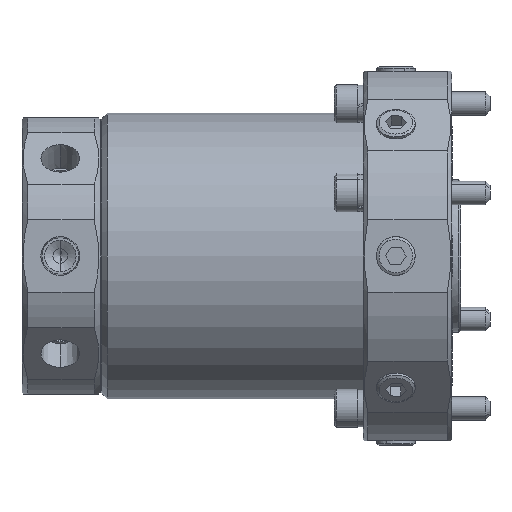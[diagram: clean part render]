
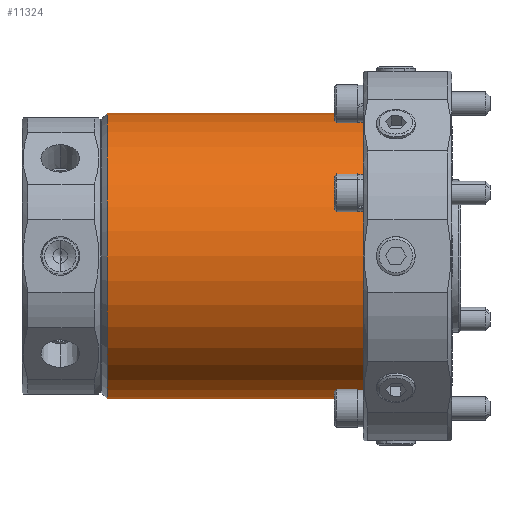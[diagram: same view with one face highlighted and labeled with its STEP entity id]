
A CAD part, left-side view. The second image highlights one B-rep face of the part: STEP entity #11324.
In plain terms, the highlighted cylindrical face has radius 48.5 mm (diameter 97 mm), a partial arc.
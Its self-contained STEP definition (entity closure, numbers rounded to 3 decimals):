
#2107 = AXIS2_PLACEMENT_3D ( 'NONE', #2121, #2109, #2166 ) ;
#2109 = DIRECTION ( 'NONE',  ( 0., 1., 0. ) ) ;
#2116 = CIRCLE ( 'NONE', #2107, 48.5 ) ;
#2121 = CARTESIAN_POINT ( 'NONE',  ( 0., -2.857, 0. ) ) ;
#2138 = DIRECTION ( 'NONE',  ( 0., 0., 1. ) ) ;
#2139 = DIRECTION ( 'NONE',  ( 0., 1., 0. ) ) ;
#2140 = CARTESIAN_POINT ( 'NONE',  ( 0., 40.14, 0. ) ) ;
#2144 = DIRECTION ( 'NONE',  ( 0., 0., 1. ) ) ;
#2145 = DIRECTION ( 'NONE',  ( 0., -1., 0. ) ) ;
#2146 = AXIS2_PLACEMENT_3D ( 'NONE', #2159, #2145, #2144 ) ;
#2150 = FACE_OUTER_BOUND ( 'NONE', #11295, .T. ) ;
#2151 = CYLINDRICAL_SURFACE ( 'NONE', #2152, 48.5 ) ;
#2152 = AXIS2_PLACEMENT_3D ( 'NONE', #2140, #2139, #2138 ) ;
#2159 = CARTESIAN_POINT ( 'NONE',  ( 0., 84.143, 0. ) ) ;
#2164 = CIRCLE ( 'NONE', #2146, 48.5 ) ;
#2166 = DIRECTION ( 'NONE',  ( 0., 0., 1. ) ) ;
#2387 = CARTESIAN_POINT ( 'NONE',  ( 0., 84.143, -48.5 ) ) ;
#2726 = LINE ( 'NONE', #2733, #2776 ) ;
#2733 = CARTESIAN_POINT ( 'NONE',  ( 0., 40.14, -48.5 ) ) ;
#2775 = DIRECTION ( 'NONE',  ( 0., 1., 0. ) ) ;
#2776 = VECTOR ( 'NONE', #2775, 1000. ) ;
#10409 = VERTEX_POINT ( 'NONE', #16898 ) ;
#10430 = VERTEX_POINT ( 'NONE', #16971 ) ;
#10477 = VERTEX_POINT ( 'NONE', #17073 ) ;
#10481 = EDGE_CURVE ( 'NONE', #10430, #10409, #17116, .T. ) ;
#11295 = EDGE_LOOP ( 'NONE', ( #11650, #11320, #11297, #11323 ) ) ;
#11297 = ORIENTED_EDGE ( 'NONE', *, *, #10481, .T. ) ;
#11312 = EDGE_CURVE ( 'NONE', #10477, #10430, #2116, .T. ) ;
#11319 = EDGE_CURVE ( 'NONE', #10409, #11486, #2164, .T. ) ;
#11320 = ORIENTED_EDGE ( 'NONE', *, *, #11312, .T. ) ;
#11323 = ORIENTED_EDGE ( 'NONE', *, *, #11319, .T. ) ;
#11324 = ADVANCED_FACE ( 'NONE', ( #2150 ), #2151, .T. ) ;
#11486 = VERTEX_POINT ( 'NONE', #2387 ) ;
#11650 = ORIENTED_EDGE ( 'NONE', *, *, #11698, .F. ) ;
#11698 = EDGE_CURVE ( 'NONE', #10477, #11486, #2726, .T. ) ;
#16898 = CARTESIAN_POINT ( 'NONE',  ( 0., 84.143, 48.5 ) ) ;
#16971 = CARTESIAN_POINT ( 'NONE',  ( 0., -2.857, 48.5 ) ) ;
#17073 = CARTESIAN_POINT ( 'NONE',  ( 0., -2.857, -48.5 ) ) ;
#17106 = DIRECTION ( 'NONE',  ( 0., 1., 0. ) ) ;
#17107 = VECTOR ( 'NONE', #17106, 1000. ) ;
#17108 = CARTESIAN_POINT ( 'NONE',  ( 0., 40.14, 48.5 ) ) ;
#17116 = LINE ( 'NONE', #17108, #17107 ) ;
